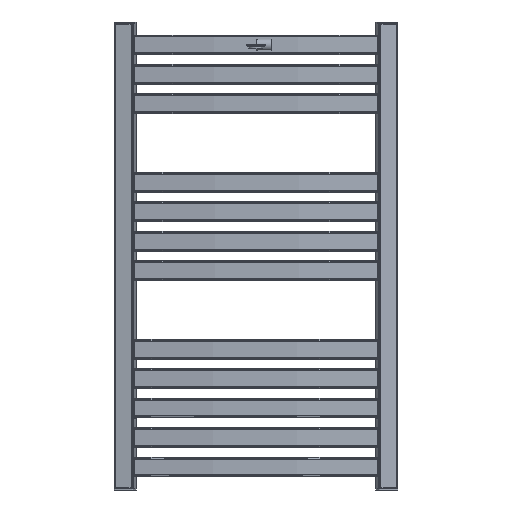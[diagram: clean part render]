
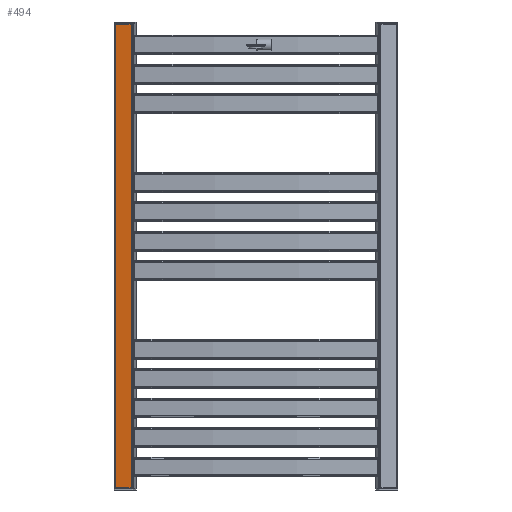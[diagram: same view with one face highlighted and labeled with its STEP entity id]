
A CAD part, front view. The second image highlights one B-rep face of the part: STEP entity #494.
In plain terms, the highlighted planar face has unit normal (-0.157, -0.988, 0) as drawn and (1, 0, 0) by its records, which use the part's own axes.
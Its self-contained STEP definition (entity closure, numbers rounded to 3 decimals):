
#494 = ADVANCED_FACE( '', ( #1041 ), #1042, .T. );
#1041 = FACE_OUTER_BOUND( '', #1623, .T. );
#1042 = PLANE( '', #1624 );
#1623 = EDGE_LOOP( '', ( #3107, #3108, #3109, #3110 ) );
#1624 = AXIS2_PLACEMENT_3D( '', #3111, #3112, #3113 );
#3107 = ORIENTED_EDGE( '', *, *, #3557, .T. );
#3108 = ORIENTED_EDGE( '', *, *, #3871, .T. );
#3109 = ORIENTED_EDGE( '', *, *, #3822, .F. );
#3110 = ORIENTED_EDGE( '', *, *, #3366, .T. );
#3111 = CARTESIAN_POINT( '', ( 15., 711., -15. ) );
#3112 = DIRECTION( '', ( 1., 0., 0. ) );
#3113 = DIRECTION( '', ( 0., 0., -1. ) );
#3366 = EDGE_CURVE( '', #4033, #4030, #4034, .F. );
#3557 = EDGE_CURVE( '', #4030, #4356, #4358, .T. );
#3822 = EDGE_CURVE( '', #4033, #4729, #4730, .T. );
#3871 = EDGE_CURVE( '', #4356, #4729, #4779, .T. );
#4030 = VERTEX_POINT( '', #4975 );
#4033 = VERTEX_POINT( '', #4978 );
#4034 = LINE( '', #4979, #4980 );
#4356 = VERTEX_POINT( '', #5387 );
#4358 = LINE( '', #5389, #5390 );
#4729 = VERTEX_POINT( '', #5891 );
#4730 = LINE( '', #5892, #5893 );
#4779 = LINE( '', #5957, #5958 );
#4975 = CARTESIAN_POINT( '', ( 15., 711., -12. ) );
#4978 = CARTESIAN_POINT( '', ( 15., 0., -12. ) );
#4979 = CARTESIAN_POINT( '', ( 15., 711., -12. ) );
#4980 = VECTOR( '', #6099, 1000. );
#5387 = CARTESIAN_POINT( '', ( 15., 711., 12. ) );
#5389 = CARTESIAN_POINT( '', ( 15., 711., -15. ) );
#5390 = VECTOR( '', #6377, 1000. );
#5891 = CARTESIAN_POINT( '', ( 15., 0., 12. ) );
#5892 = CARTESIAN_POINT( '', ( 15., 0., -15. ) );
#5893 = VECTOR( '', #6754, 1000. );
#5957 = CARTESIAN_POINT( '', ( 15., 711., 12. ) );
#5958 = VECTOR( '', #6776, 1000. );
#6099 = DIRECTION( '', ( 0., -1., 0. ) );
#6377 = DIRECTION( '', ( 0., 0., 1. ) );
#6754 = DIRECTION( '', ( 0., 0., 1. ) );
#6776 = DIRECTION( '', ( 0., -1., 0. ) );
